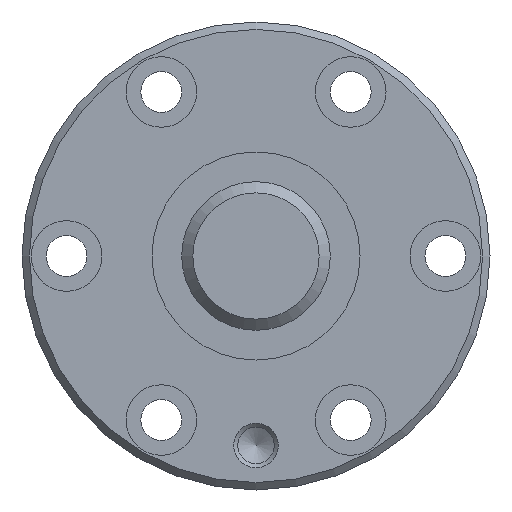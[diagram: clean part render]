
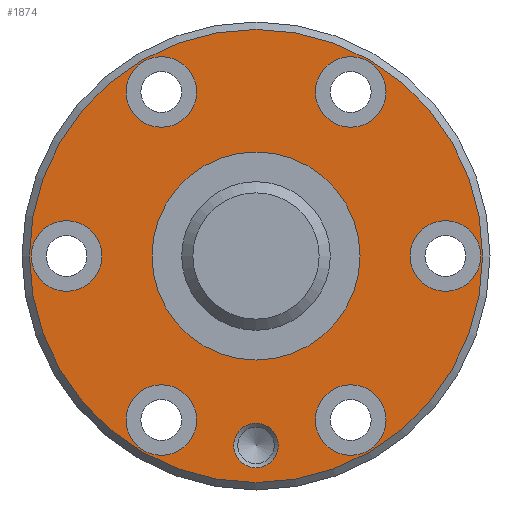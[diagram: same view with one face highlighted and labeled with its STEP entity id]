
A CAD part, left-side view. The second image highlights one B-rep face of the part: STEP entity #1874.
In plain terms, the highlighted planar face has unit normal (-1, 0, 0).
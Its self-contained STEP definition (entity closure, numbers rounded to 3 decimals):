
#452=ORIENTED_EDGE('',*,*,#936,.T.);
#453=ORIENTED_EDGE('',*,*,#937,.T.);
#454=ORIENTED_EDGE('',*,*,#938,.T.);
#455=ORIENTED_EDGE('',*,*,#939,.T.);
#456=ORIENTED_EDGE('',*,*,#940,.T.);
#457=ORIENTED_EDGE('',*,*,#941,.T.);
#458=ORIENTED_EDGE('',*,*,#942,.T.);
#459=ORIENTED_EDGE('',*,*,#943,.T.);
#460=ORIENTED_EDGE('',*,*,#944,.F.);
#936=EDGE_CURVE('',#1179,#1179,#1337,.T.);
#937=EDGE_CURVE('',#1180,#1180,#1338,.T.);
#938=EDGE_CURVE('',#1181,#1181,#1339,.T.);
#939=EDGE_CURVE('',#1182,#1182,#1340,.T.);
#940=EDGE_CURVE('',#1183,#1183,#1341,.T.);
#941=EDGE_CURVE('',#1184,#1184,#1342,.T.);
#942=EDGE_CURVE('',#1185,#1185,#1343,.T.);
#943=EDGE_CURVE('',#1186,#1186,#1344,.T.);
#944=EDGE_CURVE('',#1187,#1187,#1345,.T.);
#1179=VERTEX_POINT('',#2943);
#1180=VERTEX_POINT('',#2945);
#1181=VERTEX_POINT('',#2947);
#1182=VERTEX_POINT('',#2949);
#1183=VERTEX_POINT('',#2951);
#1184=VERTEX_POINT('',#2953);
#1185=VERTEX_POINT('',#2955);
#1186=VERTEX_POINT('',#2957);
#1187=VERTEX_POINT('',#2959);
#1337=CIRCLE('',#2032,14.);
#1338=CIRCLE('',#2033,4.75);
#1339=CIRCLE('',#2034,4.75);
#1340=CIRCLE('',#2035,3.);
#1341=CIRCLE('',#2036,4.75);
#1342=CIRCLE('',#2037,4.75);
#1343=CIRCLE('',#2038,4.75);
#1344=CIRCLE('',#2039,4.75);
#1345=CIRCLE('',#2040,30.5);
#1433=EDGE_LOOP('',(#452));
#1434=EDGE_LOOP('',(#453));
#1435=EDGE_LOOP('',(#454));
#1436=EDGE_LOOP('',(#455));
#1437=EDGE_LOOP('',(#456));
#1438=EDGE_LOOP('',(#457));
#1439=EDGE_LOOP('',(#458));
#1440=EDGE_LOOP('',(#459));
#1441=EDGE_LOOP('',(#460));
#1621=FACE_BOUND('',#1433,.T.);
#1622=FACE_BOUND('',#1434,.T.);
#1623=FACE_BOUND('',#1435,.T.);
#1624=FACE_BOUND('',#1436,.T.);
#1625=FACE_BOUND('',#1437,.T.);
#1626=FACE_BOUND('',#1438,.T.);
#1627=FACE_BOUND('',#1439,.T.);
#1628=FACE_BOUND('',#1440,.T.);
#1629=FACE_BOUND('',#1441,.T.);
#1800=PLANE('',#2031);
#1874=ADVANCED_FACE('',(#1621,#1622,#1623,#1624,#1625,#1626,#1627,#1628,
#1629),#1800,.T.);
#2031=AXIS2_PLACEMENT_3D('',#2941,#2296,#2297);
#2032=AXIS2_PLACEMENT_3D('',#2942,#2298,#2299);
#2033=AXIS2_PLACEMENT_3D('',#2944,#2300,#2301);
#2034=AXIS2_PLACEMENT_3D('',#2946,#2302,#2303);
#2035=AXIS2_PLACEMENT_3D('',#2948,#2304,#2305);
#2036=AXIS2_PLACEMENT_3D('',#2950,#2306,#2307);
#2037=AXIS2_PLACEMENT_3D('',#2952,#2308,#2309);
#2038=AXIS2_PLACEMENT_3D('',#2954,#2310,#2311);
#2039=AXIS2_PLACEMENT_3D('',#2956,#2312,#2313);
#2040=AXIS2_PLACEMENT_3D('',#2958,#2314,#2315);
#2296=DIRECTION('',(-1.,0.,0.));
#2297=DIRECTION('',(0.,0.,1.));
#2298=DIRECTION('',(1.,0.,0.));
#2299=DIRECTION('',(0.,0.,-1.));
#2300=DIRECTION('',(1.,0.,0.));
#2301=DIRECTION('',(0.,0.,-1.));
#2302=DIRECTION('',(1.,0.,0.));
#2303=DIRECTION('',(0.,0.,-1.));
#2304=DIRECTION('',(1.,0.,0.));
#2305=DIRECTION('',(0.,0.,-1.));
#2306=DIRECTION('',(1.,0.,0.));
#2307=DIRECTION('',(0.,0.,-1.));
#2308=DIRECTION('',(1.,0.,0.));
#2309=DIRECTION('',(0.,0.,-1.));
#2310=DIRECTION('',(1.,0.,0.));
#2311=DIRECTION('',(0.,0.,-1.));
#2312=DIRECTION('',(1.,0.,0.));
#2313=DIRECTION('',(0.,0.,-1.));
#2314=DIRECTION('',(1.,0.,0.));
#2315=DIRECTION('',(0.,0.,-1.));
#2941=CARTESIAN_POINT('',(0.,30.5,0.));
#2942=CARTESIAN_POINT('',(0.,0.,0.));
#2943=CARTESIAN_POINT('',(0.,0.,-14.));
#2944=CARTESIAN_POINT('',(0.,-22.084,-12.75));
#2945=CARTESIAN_POINT('',(0.,-22.084,-17.5));
#2946=CARTESIAN_POINT('',(0.,22.084,12.75));
#2947=CARTESIAN_POINT('',(0.,22.084,8.));
#2948=CARTESIAN_POINT('',(0.,-25.5,0.));
#2949=CARTESIAN_POINT('',(0.,-25.5,-3.));
#2950=CARTESIAN_POINT('',(0.,0.,25.5));
#2951=CARTESIAN_POINT('',(0.,0.,20.75));
#2952=CARTESIAN_POINT('',(0.,-22.084,12.75));
#2953=CARTESIAN_POINT('',(0.,-22.084,8.));
#2954=CARTESIAN_POINT('',(0.,0.,-25.5));
#2955=CARTESIAN_POINT('',(0.,0.,-30.25));
#2956=CARTESIAN_POINT('',(0.,22.084,-12.75));
#2957=CARTESIAN_POINT('',(0.,22.084,-17.5));
#2958=CARTESIAN_POINT('',(0.,0.,0.));
#2959=CARTESIAN_POINT('',(0.,0.,-30.5));
